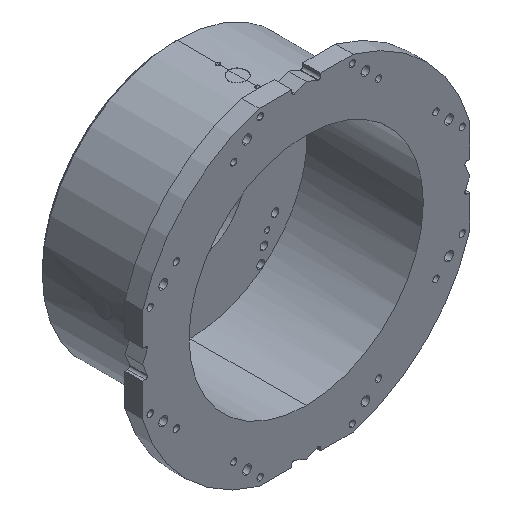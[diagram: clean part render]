
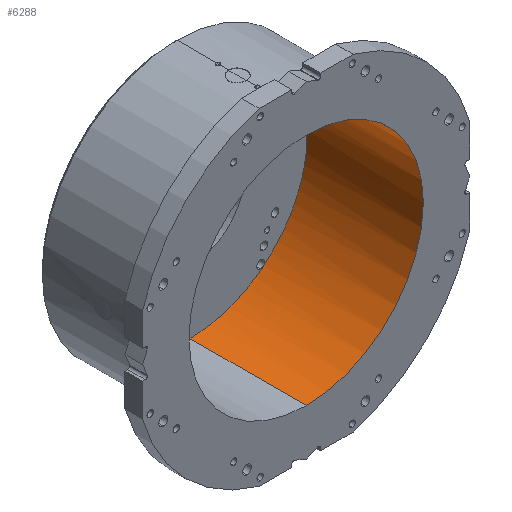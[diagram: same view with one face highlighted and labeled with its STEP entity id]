
A CAD part, isometric view. The second image highlights one B-rep face of the part: STEP entity #6288.
In plain terms, the highlighted cylindrical face has radius 265 mm (diameter 530 mm), a partial arc.
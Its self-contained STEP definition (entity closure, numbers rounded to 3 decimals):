
#440 = ORIENTED_EDGE ( 'NONE', *, *, #5184, .F. ) ;
#480 = AXIS2_PLACEMENT_3D ( 'NONE', #9257, #2747, #2102 ) ;
#646 = CARTESIAN_POINT ( 'NONE',  ( 0., 0., 0. ) ) ;
#794 = VERTEX_POINT ( 'NONE', #7126 ) ;
#1574 = CARTESIAN_POINT ( 'NONE',  ( 0., 263., -265. ) ) ;
#1948 = CARTESIAN_POINT ( 'NONE',  ( 0., 263., 265. ) ) ;
#2102 = DIRECTION ( 'NONE',  ( 0., 0., 1. ) ) ;
#2747 = DIRECTION ( 'NONE',  ( 0., 1., 0. ) ) ;
#2790 = DIRECTION ( 'NONE',  ( 0., 1., 0. ) ) ;
#2819 = FACE_OUTER_BOUND ( 'NONE', #7404, .T. ) ;
#2984 = AXIS2_PLACEMENT_3D ( 'NONE', #646, #2790, #6426 ) ;
#2995 = VECTOR ( 'NONE', #5001, 1000. ) ;
#3915 = CIRCLE ( 'NONE', #2984, 265. ) ;
#4034 = EDGE_CURVE ( 'NONE', #7164, #7510, #7048, .T. ) ;
#4806 = CARTESIAN_POINT ( 'NONE',  ( 0., 0., 265. ) ) ;
#4842 = CIRCLE ( 'NONE', #480, 265. ) ;
#4921 = CYLINDRICAL_SURFACE ( 'NONE', #6215, 265. ) ;
#5001 = DIRECTION ( 'NONE',  ( 0., 1., 0. ) ) ;
#5022 = CARTESIAN_POINT ( 'NONE',  ( 0., 0., 265. ) ) ;
#5127 = ORIENTED_EDGE ( 'NONE', *, *, #4034, .T. ) ;
#5184 = EDGE_CURVE ( 'NONE', #7164, #794, #3915, .T. ) ;
#5748 = DIRECTION ( 'NONE',  ( 0., 1., 0. ) ) ;
#6215 = AXIS2_PLACEMENT_3D ( 'NONE', #7787, #5748, #7969 ) ;
#6288 = ADVANCED_FACE ( 'NONE', ( #2819 ), #4921, .F. ) ;
#6426 = DIRECTION ( 'NONE',  ( 0., 0., 1. ) ) ;
#6902 = VERTEX_POINT ( 'NONE', #1574 ) ;
#7048 = LINE ( 'NONE', #4806, #2995 ) ;
#7062 = ORIENTED_EDGE ( 'NONE', *, *, #7587, .F. ) ;
#7126 = CARTESIAN_POINT ( 'NONE',  ( 0., 0., -265. ) ) ;
#7164 = VERTEX_POINT ( 'NONE', #5022 ) ;
#7404 = EDGE_LOOP ( 'NONE', ( #7062, #440, #5127, #9175 ) ) ;
#7510 = VERTEX_POINT ( 'NONE', #1948 ) ;
#7587 = EDGE_CURVE ( 'NONE', #794, #6902, #8451, .T. ) ;
#7751 = DIRECTION ( 'NONE',  ( 0., 1., 0. ) ) ;
#7787 = CARTESIAN_POINT ( 'NONE',  ( 0., 0., 0. ) ) ;
#7935 = CARTESIAN_POINT ( 'NONE',  ( 0., 0., -265. ) ) ;
#7969 = DIRECTION ( 'NONE',  ( 0., 0., 1. ) ) ;
#8451 = LINE ( 'NONE', #7935, #8784 ) ;
#8784 = VECTOR ( 'NONE', #7751, 1000. ) ;
#8961 = EDGE_CURVE ( 'NONE', #7510, #6902, #4842, .T. ) ;
#9175 = ORIENTED_EDGE ( 'NONE', *, *, #8961, .T. ) ;
#9257 = CARTESIAN_POINT ( 'NONE',  ( 0., 263., 0. ) ) ;
